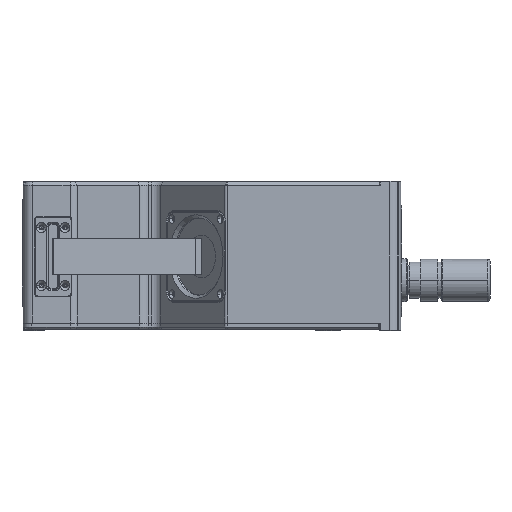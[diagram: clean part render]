
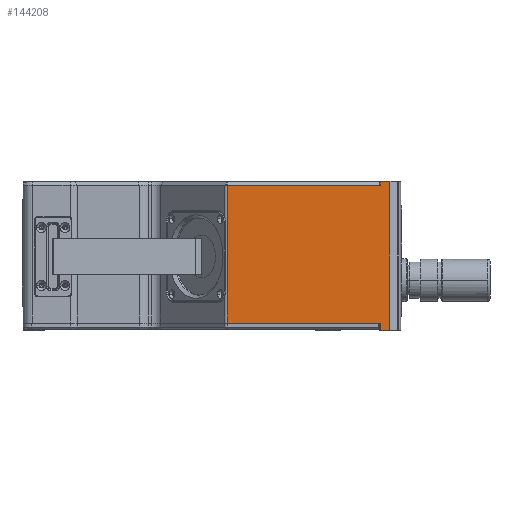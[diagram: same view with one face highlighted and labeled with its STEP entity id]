
A CAD part, front view. The second image highlights one B-rep face of the part: STEP entity #144208.
In plain terms, the highlighted planar face has unit normal (0, -1, 0).
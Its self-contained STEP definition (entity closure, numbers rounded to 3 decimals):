
#137 = ORIENTED_EDGE ( 'NONE', *, *, #103702, .T. ) ;
#3790 = VERTEX_POINT ( 'NONE', #161806 ) ;
#6236 = DIRECTION ( 'NONE',  ( 0., 0., -1. ) ) ;
#15177 = CARTESIAN_POINT ( 'NONE',  ( 164.101, -17.156, 68.334 ) ) ;
#19910 = ORIENTED_EDGE ( 'NONE', *, *, #126901, .T. ) ;
#25947 = VECTOR ( 'NONE', #6236, 1000. ) ;
#26010 = VECTOR ( 'NONE', #96977, 1000. ) ;
#28359 = CARTESIAN_POINT ( 'NONE',  ( 92.646, -17.156, 66.834 ) ) ;
#31388 = LINE ( 'NONE', #87762, #41223 ) ;
#31907 = CARTESIAN_POINT ( 'NONE',  ( 168.458, -17.156, -0.766 ) ) ;
#32998 = CARTESIAN_POINT ( 'NONE',  ( 95.601, -17.156, 66.834 ) ) ;
#35964 = DIRECTION ( 'NONE',  ( -1., 0., 0. ) ) ;
#36356 = CARTESIAN_POINT ( 'NONE',  ( 168.458, -17.156, -0.766 ) ) ;
#36844 = CARTESIAN_POINT ( 'NONE',  ( 164.101, -17.156, 68.334 ) ) ;
#41223 = VECTOR ( 'NONE', #112747, 1000. ) ;
#41844 = CARTESIAN_POINT ( 'NONE',  ( 164.101, -17.156, -0.766 ) ) ;
#45862 = ORIENTED_EDGE ( 'NONE', *, *, #52072, .T. ) ;
#48252 = LINE ( 'NONE', #32998, #69663 ) ;
#48868 = LINE ( 'NONE', #157932, #26010 ) ;
#49616 = VECTOR ( 'NONE', #35964, 1000. ) ;
#49833 = DIRECTION ( 'NONE',  ( 0., 1., 0. ) ) ;
#50733 = CARTESIAN_POINT ( 'NONE',  ( 95.601, -17.156, 68.334 ) ) ;
#52072 = EDGE_CURVE ( 'NONE', #109983, #3790, #114429, .T. ) ;
#60538 = AXIS2_PLACEMENT_3D ( 'NONE', #50733, #49833, #174077 ) ;
#69663 = VECTOR ( 'NONE', #103559, 1000. ) ;
#71080 = EDGE_CURVE ( 'NONE', #119654, #125688, #48868, .T. ) ;
#75300 = DIRECTION ( 'NONE',  ( 0., 0., -1. ) ) ;
#75889 = VECTOR ( 'NONE', #107497, 1000. ) ;
#76436 = EDGE_CURVE ( 'NONE', #82289, #92734, #31388, .T. ) ;
#78357 = PLANE ( 'NONE',  #60538 ) ;
#80371 = LINE ( 'NONE', #31907, #158618 ) ;
#82289 = VERTEX_POINT ( 'NONE', #36356 ) ;
#87762 = CARTESIAN_POINT ( 'NONE',  ( 168.458, -17.156, 68.334 ) ) ;
#90511 = LINE ( 'NONE', #36844, #49616 ) ;
#91350 = LINE ( 'NONE', #172723, #169761 ) ;
#91704 = ORIENTED_EDGE ( 'NONE', *, *, #76436, .T. ) ;
#92734 = VERTEX_POINT ( 'NONE', #113824 ) ;
#96977 = DIRECTION ( 'NONE',  ( 1., 0., 0. ) ) ;
#100356 = EDGE_LOOP ( 'NONE', ( #19910, #137, #91704, #125738, #45862, #120914, #115448, #154660 ) ) ;
#100972 = CARTESIAN_POINT ( 'NONE',  ( 164.101, -17.156, 66.834 ) ) ;
#101569 = VERTEX_POINT ( 'NONE', #28359 ) ;
#101795 = EDGE_CURVE ( 'NONE', #101569, #119654, #91350, .T. ) ;
#103559 = DIRECTION ( 'NONE',  ( -1., 0., 0. ) ) ;
#103702 = EDGE_CURVE ( 'NONE', #110220, #82289, #80371, .T. ) ;
#107497 = DIRECTION ( 'NONE',  ( 0., 0., -1. ) ) ;
#107752 = FACE_OUTER_BOUND ( 'NONE', #100356, .T. ) ;
#109628 = CARTESIAN_POINT ( 'NONE',  ( 164.101, -17.156, 2.534 ) ) ;
#109983 = VERTEX_POINT ( 'NONE', #15177 ) ;
#110220 = VERTEX_POINT ( 'NONE', #41844 ) ;
#111492 = DIRECTION ( 'NONE',  ( 1., 0., 0. ) ) ;
#112747 = DIRECTION ( 'NONE',  ( 0., 0., 1. ) ) ;
#113824 = CARTESIAN_POINT ( 'NONE',  ( 168.458, -17.156, 68.334 ) ) ;
#114429 = LINE ( 'NONE', #100972, #25947 ) ;
#115448 = ORIENTED_EDGE ( 'NONE', *, *, #101795, .T. ) ;
#119654 = VERTEX_POINT ( 'NONE', #122614 ) ;
#120914 = ORIENTED_EDGE ( 'NONE', *, *, #160302, .T. ) ;
#122614 = CARTESIAN_POINT ( 'NONE',  ( 92.646, -17.156, 2.534 ) ) ;
#125688 = VERTEX_POINT ( 'NONE', #109628 ) ;
#125738 = ORIENTED_EDGE ( 'NONE', *, *, #145492, .T. ) ;
#126901 = EDGE_CURVE ( 'NONE', #125688, #110220, #175576, .T. ) ;
#136146 = CARTESIAN_POINT ( 'NONE',  ( 164.101, -17.156, -0.966 ) ) ;
#144208 = ADVANCED_FACE ( 'NONE', ( #107752 ), #78357, .F. ) ;
#145492 = EDGE_CURVE ( 'NONE', #92734, #109983, #90511, .T. ) ;
#154660 = ORIENTED_EDGE ( 'NONE', *, *, #71080, .T. ) ;
#157932 = CARTESIAN_POINT ( 'NONE',  ( 95.601, -17.156, 2.534 ) ) ;
#158618 = VECTOR ( 'NONE', #111492, 1000. ) ;
#160302 = EDGE_CURVE ( 'NONE', #3790, #101569, #48252, .T. ) ;
#161806 = CARTESIAN_POINT ( 'NONE',  ( 164.101, -17.156, 66.834 ) ) ;
#169761 = VECTOR ( 'NONE', #75300, 1000. ) ;
#172723 = CARTESIAN_POINT ( 'NONE',  ( 92.646, -17.156, 2.534 ) ) ;
#174077 = DIRECTION ( 'NONE',  ( -1., 0., 0. ) ) ;
#175576 = LINE ( 'NONE', #136146, #75889 ) ;
